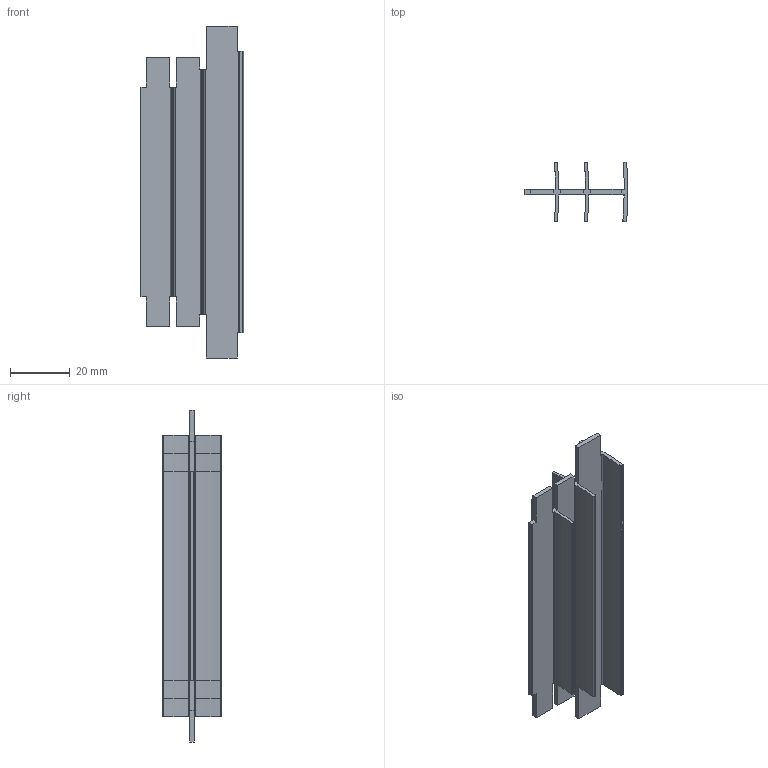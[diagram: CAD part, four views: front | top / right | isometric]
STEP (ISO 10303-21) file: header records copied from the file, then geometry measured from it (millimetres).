
FILE_DESCRIPTION(/* description */ ('(C) Elphel, Inc. 2011. Licensed under CERN OHL v.1.1 or later, see http://ohwr.org/cernohl'),/* implementation_level */ '2;1');
FILE_NAME(/* name */ '0353-12-402',/* time_stamp */ '2011-10-13T16:33:09-06:00',/* author */ (''),/* organization */ ('Elphel, Inc'),/* preprocessor_version */ 'ST-DEVELOPER v12',/* originating_system */ 'VariCAD 2010-3.03; kernel version (20100102)',/* authorisation */ '');
FILE_SCHEMA (('AUTOMOTIVE_DESIGN'));
Length unit declared in the file: millimetre
Products named in the file (1): Part
Bounding box: 34.61 x 19.6 x 110.82 mm (x, y, z)
Volume: 10046.2 mm3; surface area: 15813 mm2
Topology: 1 solids, 1 shells, 74 faces, 216 edges, 144 vertices
Faces by surface type: plane 39, cylinder 35
Entity records: 2497 total; most frequent: DIRECTION 438, CARTESIAN_POINT 436, ORIENTED_EDGE 432, EDGE_CURVE 216, LINE 146, VECTOR 146, AXIS2_PLACEMENT_3D 146, VERTEX_POINT 144
